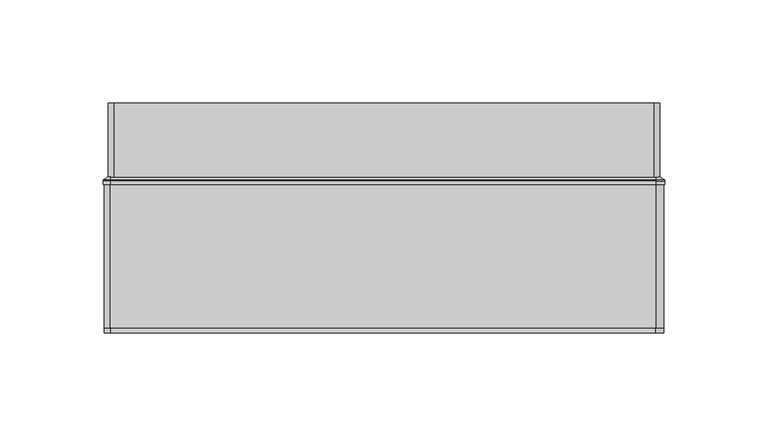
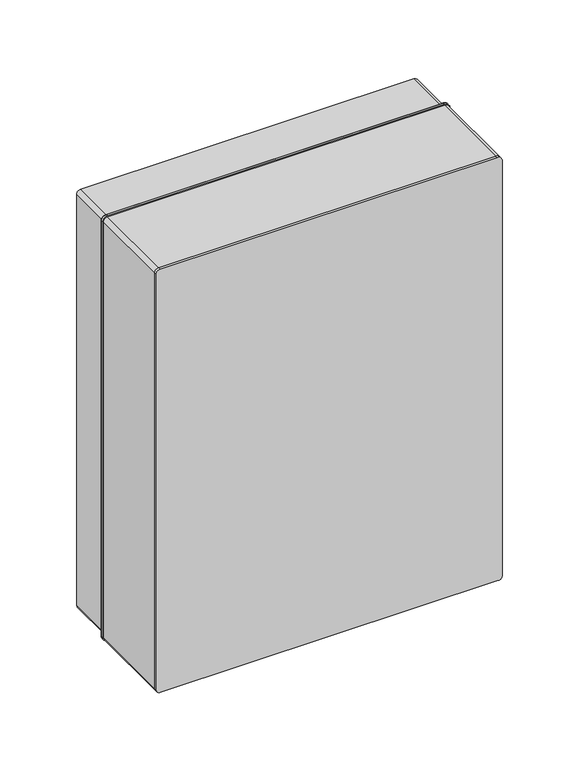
"""IFC4 building model written with IfcOpenShell, lengths in millimetres: proxy geometry, ЩРН-П-18_24_IP65 : ЩРН-П-24_IP65."""

from ifc_helpers import new_model, si_unit, point, frame, frame_2d, origin, place, context, project, spatial, polyline, circle_curve, ellipse_curve, trimmed, segment, composite_curve, outline, extrude, source, transform, mapped, element, save
from ifc_brep_helpers import plane_surface, cylinder_surface, revolved_surface, advanced_brep


def electrical_equipment_e8acea0d(model_context):
    return source(origin(), model_context, "Body", "SolidModel", [
        extrude(outline(polyline([(121.75, 91.5193543), (-121.75, 91.5193543), (-121.75, 111.5193543), (121.75, 111.5193543), (121.75, 91.5193543)])), frame((0.0, 0.0, -134.9981471), z_axis=(0.0, 0.0, 1.0), x_axis=(1.0, 0.0, 0.0)), (0.0, 0.0, 1.0), 115.0),
        extrude(outline(polyline([(121.75, 91.5193543), (-121.75, 91.5193543), (-121.75, 111.5193543), (121.75, 111.5193543), (121.75, 91.5193543)])), frame((0.0, 0.0, 19.9981471), z_axis=(0.0, 0.0, 1.0), x_axis=(1.0, 0.0, 0.0)), (0.0, 0.0, 1.0), 115.0),
        extrude(outline(composite_curve([segment(polyline([(173.5, 130.75), (173.5, -130.75)]), True, "CONTINUOUS"), segment(trimmed(circle_curve(frame_2d((170.5, -130.75)), 3.0), [point((173.5, -130.75))], [point((170.5, -133.75))], False, "CARTESIAN"), True, "CONTINUOUS"), segment(polyline([(170.5, -133.75), (-170.5, -133.75)]), True, "CONTINUOUS"), segment(trimmed(circle_curve(frame_2d((-170.5, -130.75)), 3.0), [point((-170.5, -133.75))], [point((-173.5, -130.75))], False, "CARTESIAN"), True, "CONTINUOUS"), segment(polyline([(-173.5, -130.75), (-173.5, 130.75)]), True, "CONTINUOUS"), segment(trimmed(circle_curve(frame_2d((-170.5, 130.75)), 3.0), [point((-173.5, 130.75))], [point((-170.5, 133.75))], False, "CARTESIAN"), True, "CONTINUOUS"), segment(polyline([(-170.5, 133.75), (170.5, 133.75)]), True, "CONTINUOUS"), segment(trimmed(circle_curve(frame_2d((170.5, 130.75)), 3.0), [point((170.5, 133.75))], [point((173.5, 130.75))], False, "CARTESIAN"), True, "CONTINUOUS")], self_intersect=False), holes=[polyline([(134.9962941, 121.75), (20.0, 121.75), (20.0, -121.75), (134.9962941, -121.75), (134.9962941, 121.75)]), polyline([(-134.9962941, 121.75), (-134.9962941, -121.75), (-20.0, -121.75), (-20.0, 121.75), (-134.9962941, 121.75)])]), frame((0.0, 75.5193543, 0.0), z_axis=(0.0, 1.0, 0.0), x_axis=(0.0, 0.0, 1.0)), (0.0, 0.0, 1.0), 36.0),
        extrude(outline(composite_curve([segment(trimmed(circle_curve(frame_2d((172.5, -132.75)), 3.0), [point((175.5, -132.75))], [point((172.5, -135.75))], False, "CARTESIAN"), True, "CONTINUOUS"), segment(polyline([(172.5, -135.75), (-172.5, -135.75)]), True, "CONTINUOUS"), segment(trimmed(circle_curve(frame_2d((-172.5, -132.75)), 3.0), [point((-172.5, -135.75))], [point((-175.5, -132.75))], False, "CARTESIAN"), True, "CONTINUOUS"), segment(polyline([(-175.5, -132.75), (-175.5, 132.75)]), True, "CONTINUOUS"), segment(trimmed(circle_curve(frame_2d((-172.5, 132.75)), 3.0), [point((-175.5, 132.75))], [point((-172.5, 135.75))], False, "CARTESIAN"), True, "CONTINUOUS"), segment(polyline([(-172.5, 135.75), (171.5283006, 135.75)]), True, "CONTINUOUS"), segment(trimmed(circle_curve(frame_2d((171.5283006, 131.7783006)), 3.9716994), [point((171.5283006, 135.75))], [point((175.5, 131.7783006))], False, "CARTESIAN"), True, "CONTINUOUS"), segment(polyline([(175.5, 131.7783006), (175.5, -132.75)]), True, "CONTINUOUS")], self_intersect=False)), frame((0.0, 0.0, 0.0), z_axis=(0.0, 1.0, 0.0), x_axis=(0.0, 0.0, 1.0)), (0.0, 0.0, 1.0), 2.0),
        advanced_brep(
        [(-136.2398142, 72.0, 172.507075), (-132.7276209, 72.0, 176.0192684), (-132.7276209, 73.566402, 176.0192684), (-136.2398142, 73.566402, 172.507075), (-133.7398142, 75.5193543, 172.507075), (-132.7276209, 75.5193543, 173.5192684), (-132.7276209, 72.0, 173.5192684), (-133.7398142, 72.0, 172.507075), (-136.2398142, 73.566402, -172.4754068), (-136.2398142, 72.0, -172.4754068), (-133.7398142, 72.0, -172.4754068), (-133.7398142, 75.5193543, -172.4754068), (-132.748733, 72.0, -175.966488), (-132.748733, 73.566402, -175.966488), (-132.748733, 75.5193543, -173.466488), (-132.748733, 72.0, -173.466488), (132.6996724, 73.566402, -175.966488), (132.6996724, 72.0, -175.966488), (132.6996724, 72.0, -173.466488), (132.6996724, 75.5193543, -173.466488), (136.2641503, 72.0, -172.40201), (136.2641503, 73.566402, -172.40201), (133.7641503, 75.5193543, -172.40201), (133.7641503, 72.0, -172.40201), (131.7635486, 72.0, 176.0192684), (131.7635486, 73.566402, 176.0192684), (131.7635486, 75.5193543, 173.5192684), (131.7635486, 72.0, 173.5192684), (-135.8514108, 74.2523963, 172.507075), (-132.7276209, 74.2523963, 175.630865), (-135.8514108, 74.2523963, -172.4754068), (-132.748733, 74.2523963, -175.5780846), (132.6996724, 74.2523963, -175.5780846), (135.8757469, 74.2523963, -172.40201), (131.7635486, 74.2523963, 175.630865), (133.7641503, 75.5193543, 171.5186666), (135.8757469, 74.2523963, 171.5186666), (136.2641503, 73.566402, 171.5186666), (136.2641503, 72.0, 171.5186666), (133.7641503, 72.0, 171.5186666)],
        [
            (0, 1, circle_curve(frame((-132.7276209, 72.0, 172.507075), z_axis=(0.0, 1.0, 0.0), x_axis=(0.0, 0.0, 1.0)), 3.5121934)),
            (1, 2),
            (2, 3, circle_curve(frame((-132.7276209, 73.566402, 172.507075), z_axis=(0.0, -1.0, 0.0), x_axis=(0.0, 0.0, 1.0)), 3.5121934)),
            (3, 0),
            (4, 5, circle_curve(frame((-132.7276209, 75.5193543, 172.507075), z_axis=(0.0, 1.0, 0.0), x_axis=(0.0, 0.0, 1.0)), 1.0121934)),
            (5, 6),
            (6, 7, circle_curve(frame((-132.7276209, 72.0, 172.507075), z_axis=(0.0, -1.0, 0.0), x_axis=(0.0, 0.0, 1.0)), 1.0121934)),
            (7, 4),
            (3, 8),
            (8, 9),
            (9, 0),
            (7, 10),
            (10, 11),
            (11, 4),
            (12, 9, circle_curve(frame((-132.748733, 72.0, -172.4754068), z_axis=(0.0, 1.0, 0.0), x_axis=(-1.0, 0.0, 0.0)), 3.4910812)),
            (8, 13, circle_curve(frame((-132.748733, 73.566402, -172.4754068), z_axis=(0.0, -1.0, 0.0), x_axis=(-1.0, 0.0, 0.0)), 3.4910812)),
            (13, 12),
            (14, 11, circle_curve(frame((-132.748733, 75.5193543, -172.4754068), z_axis=(0.0, 1.0, 0.0), x_axis=(-1.0, 0.0, 0.0)), 0.9910812)),
            (10, 15, circle_curve(frame((-132.748733, 72.0, -172.4754068), z_axis=(0.0, -1.0, 0.0), x_axis=(-1.0, 0.0, 0.0)), 0.9910812)),
            (15, 14),
            (13, 16),
            (16, 17),
            (17, 12),
            (15, 18),
            (18, 19),
            (19, 14),
            (20, 17, circle_curve(frame((132.6996724, 72.0, -172.40201), z_axis=(0.0, 1.0, 0.0), x_axis=(0.0, 0.0, -1.0)), 3.564478)),
            (16, 21, circle_curve(frame((132.6996724, 73.566402, -172.40201), z_axis=(0.0, -1.0, 0.0), x_axis=(0.0, 0.0, -1.0)), 3.564478)),
            (21, 20),
            (22, 19, circle_curve(frame((132.6996724, 75.5193543, -172.40201), z_axis=(0.0, 1.0, 0.0), x_axis=(0.0, 0.0, -1.0)), 1.064478)),
            (18, 23, circle_curve(frame((132.6996724, 72.0, -172.40201), z_axis=(0.0, -1.0, 0.0), x_axis=(0.0, 0.0, -1.0)), 1.064478)),
            (23, 22),
            (24, 25),
            (25, 2),
            (1, 24),
            (26, 27),
            (27, 6),
            (5, 26),
            (28, 29, circle_curve(frame((-132.7276209, 74.2523963, 172.507075), z_axis=(0.0, 1.0, 0.0), x_axis=(0.0, 0.0, 1.0)), 3.12379)),
            (29, 5),
            (4, 28),
            (2, 29, circle_curve(frame((-132.7276209, 73.566402, 175.2192684), z_axis=(-1.0, 0.0, 0.0), x_axis=(0.0, 0.0, -1.0)), 0.8)),
            (28, 3, circle_curve(frame((-135.4398142, 73.566402, 172.507075), z_axis=(0.0, 0.0, 1.0), x_axis=(1.0, 0.0, 0.0)), 0.8)),
            (11, 30),
            (30, 28),
            (30, 8, circle_curve(frame((-135.4398142, 73.566402, -172.4754068), z_axis=(0.0, 0.0, 1.0), x_axis=(1.0, 0.0, 0.0)), 0.8)),
            (31, 30, circle_curve(frame((-132.748733, 74.2523963, -172.4754068), z_axis=(0.0, 1.0, 0.0), x_axis=(-1.0, 0.0, 0.0)), 3.1026778)),
            (14, 31),
            (31, 13, circle_curve(frame((-132.748733, 73.566402, -175.166488), z_axis=(-1.0, 0.0, 0.0), x_axis=(0.0, 0.0, 1.0)), 0.8)),
            (19, 32),
            (32, 31),
            (32, 16, circle_curve(frame((132.6996724, 73.566402, -175.166488), z_axis=(-1.0, 0.0, 0.0), x_axis=(0.0, 0.0, 1.0)), 0.8)),
            (33, 32, circle_curve(frame((132.6996724, 74.2523963, -172.40201), z_axis=(0.0, 1.0, 0.0), x_axis=(0.0, 0.0, -1.0)), 3.1760746)),
            (22, 33),
            (33, 21, circle_curve(frame((135.4641503, 73.566402, -172.40201), z_axis=(0.0, 0.0, -1.0), x_axis=(-1.0, 0.0, 0.0)), 0.8)),
            (34, 26),
            (29, 34),
            (25, 34, circle_curve(frame((131.7635486, 73.566402, 175.2192684), z_axis=(-1.0, 0.0, 0.0), x_axis=(0.0, 0.0, -1.0)), 0.8)),
            (22, 35),
            (35, 36),
            (36, 33),
            (36, 37, circle_curve(frame((135.4641503, 73.566402, 171.5186666), z_axis=(0.0, 0.0, -1.0), x_axis=(-1.0, 0.0, 0.0)), 0.8)),
            (37, 21),
            (37, 38),
            (38, 20),
            (23, 39),
            (39, 35),
            (34, 36, circle_curve(frame((131.7635486, 74.2523963, 171.5186666), z_axis=(0.0, 1.0, 0.0), x_axis=(1.0, 0.0, 0.0)), 4.1121984)),
            (35, 26, circle_curve(frame((131.7635486, 75.5193543, 171.5186666), z_axis=(0.0, -1.0, 0.0), x_axis=(1.0, 0.0, 0.0)), 2.0006018)),
            (25, 37, circle_curve(frame((131.7635486, 73.566402, 171.5186666), z_axis=(0.0, 1.0, 0.0), x_axis=(1.0, 0.0, 0.0)), 4.5006018)),
            (24, 38, circle_curve(frame((131.7635486, 72.0, 171.5186666), z_axis=(0.0, 1.0, 0.0), x_axis=(1.0, 0.0, 0.0)), 4.5006018)),
            (27, 39, circle_curve(frame((131.7635486, 72.0, 171.5186666), z_axis=(0.0, 1.0, 0.0), x_axis=(1.0, 0.0, 0.0)), 2.0006018)),
        ],
        [
            cylinder_surface(frame((-132.7276209, 0.0, 172.507075), z_axis=(0.0, -1.0, 0.0), x_axis=(0.0, 0.0, 1.0)), 3.5121934),
            revolved_surface(polyline([(-132.7276209, 72.0, 173.5192684), (-132.7276209, 75.5193543, 173.5192684)]), (-132.7276209, 0.0, 172.507075), (0.0, -1.0, 0.0)),
            plane_surface(frame((-136.2398142, 73.566402, 172.507075), z_axis=(-1.0, 0.0, 0.0), x_axis=(0.0, 0.0, -1.0))),
            plane_surface(frame((-133.7398142, 72.0, 172.507075), z_axis=(1.0, 0.0, 0.0), x_axis=(0.0, 0.0, -1.0))),
            cylinder_surface(frame((-132.748733, 0.0, -172.4754068), z_axis=(0.0, -1.0, 0.0), x_axis=(-1.0, 0.0, 0.0)), 3.4910812),
            revolved_surface(polyline([(-133.73981419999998, 72.0, -172.4754068), (-133.73981419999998, 75.5193543, -172.4754068)]), (-132.748733, 0.0, -172.4754068), (0.0, -1.0, 0.0)),
            plane_surface(frame((-132.748733, 73.566402, -175.966488), z_axis=(0.0, 0.0, -1.0), x_axis=(1.0, 0.0, 0.0))),
            plane_surface(frame((-132.748733, 72.0, -173.466488), z_axis=(0.0, 0.0, 1.0), x_axis=(1.0, 0.0, 0.0))),
            cylinder_surface(frame((132.6996724, 0.0, -172.40201), z_axis=(0.0, -1.0, 0.0), x_axis=(0.0, 0.0, -1.0)), 3.564478),
            revolved_surface(polyline([(132.6996724, 72.0, -173.466488), (132.6996724, 75.5193543, -173.466488)]), (132.6996724, 0.0, -172.40201), (0.0, -1.0, 0.0)),
            plane_surface(frame((131.7635486, 73.566402, 176.0192684), z_axis=(0.0, 0.0, 1.0), x_axis=(-1.0, 0.0, 0.0))),
            plane_surface(frame((131.7635486, 72.0, 173.5192684), z_axis=(0.0, 0.0, -1.0), x_axis=(-1.0, 0.0, 0.0))),
            revolved_surface(polyline([(-132.7276209, 75.5193543, 173.5192684), (-132.7276209, 74.2523963, 175.630865)]), (-132.7276209, 0.0, 172.507075), (0.0, -1.0, 0.0)),
            revolved_surface(trimmed(ellipse_curve(frame((-132.7276209, 73.566402, 175.2192684), z_axis=(1.0, 0.0, 0.0), x_axis=(0.0, 0.0, -1.0)), 0.8, 0.8), [point((-132.7276209, 74.2523963, 175.630865))], [point((-132.7276209, 73.566402, 176.0192684))], True, "CARTESIAN"), (-132.7276209, 0.0, 172.507075), (0.0, -1.0, 0.0)),
            plane_surface(frame((-133.7398142, 75.5193543, 172.507075), z_axis=(-0.5144957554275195, 0.8574929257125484, 0.0), x_axis=(0.0, 0.0, -1.0))),
            cylinder_surface(frame((-135.4398142, 73.566402, 172.507075), z_axis=(0.0, 0.0, 1.0), x_axis=(1.0, 0.0, 0.0)), 0.8),
            revolved_surface(polyline([(-133.7398142, 75.5193543, -172.4754068), (-135.8514108, 74.2523963, -172.4754068)]), (-132.748733, 0.0, -172.4754068), (0.0, -1.0, 0.0)),
            revolved_surface(trimmed(ellipse_curve(frame((-135.4398142, 73.566402, -172.4754068), z_axis=(0.0, 0.0, 1.0), x_axis=(1.0, 0.0, 0.0)), 0.8, 0.8), [point((-135.8514108, 74.2523963, -172.4754068))], [point((-136.2398142, 73.566402, -172.4754068))], True, "CARTESIAN"), (-132.748733, 0.0, -172.4754068), (0.0, -1.0, 0.0)),
            plane_surface(frame((-132.748733, 75.5193543, -173.466488), z_axis=(0.0, 0.8574929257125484, -0.5144957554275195), x_axis=(1.0, 0.0, 0.0))),
            cylinder_surface(frame((-132.748733, 73.566402, -175.166488), z_axis=(-1.0, 0.0, 0.0), x_axis=(0.0, 0.0, 1.0)), 0.8),
            revolved_surface(polyline([(132.6996724, 75.5193543, -173.466488), (132.6996724, 74.2523963, -175.5780846)]), (132.6996724, 0.0, -172.40201), (0.0, -1.0, 0.0)),
            revolved_surface(trimmed(ellipse_curve(frame((132.6996724, 73.566402, -175.166488), z_axis=(-1.0, 0.0, 0.0), x_axis=(0.0, 0.0, 1.0)), 0.8, 0.8), [point((132.6996724, 74.2523963, -175.5780846))], [point((132.6996724, 73.566402, -175.966488))], True, "CARTESIAN"), (132.6996724, 0.0, -172.40201), (0.0, -1.0, 0.0)),
            plane_surface(frame((131.7635486, 75.5193543, 173.5192684), z_axis=(0.0, 0.8574929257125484, 0.5144957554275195), x_axis=(-1.0, 0.0, 0.0))),
            cylinder_surface(frame((131.7635486, 73.566402, 175.2192684), z_axis=(1.0, 0.0, 0.0), x_axis=(0.0, 0.0, -1.0)), 0.8),
            plane_surface(frame((133.7641503, 75.5193543, -172.40201), z_axis=(0.5144957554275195, 0.8574929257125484, 0.0), x_axis=(0.0, 0.0, 1.0))),
            cylinder_surface(frame((135.4641503, 73.566402, -172.40201), z_axis=(0.0, 0.0, -1.0), x_axis=(-1.0, 0.0, 0.0)), 0.8),
            plane_surface(frame((136.2641503, 73.566402, -172.40201), z_axis=(1.0, 0.0, 0.0), x_axis=(0.0, 0.0, 1.0))),
            plane_surface(frame((133.7641503, 72.0, -172.40201), z_axis=(-1.0, 0.0, 0.0), x_axis=(0.0, 0.0, 1.0))),
            revolved_surface(polyline([(133.7641503, 75.5193543, 171.5186666), (135.8757469, 74.2523963, 171.5186666)]), (131.7635486, 0.0, 171.5186666), (0.0, -1.0, 0.0)),
            revolved_surface(trimmed(ellipse_curve(frame((135.4641503, 73.566402, 171.5186666), z_axis=(0.0, 0.0, -1.0), x_axis=(-1.0, 0.0, 0.0)), 0.8, 0.8), [point((135.8757469, 74.2523963, 171.5186666))], [point((136.2641503, 73.566402, 171.5186666))], True, "CARTESIAN"), (131.7635486, 0.0, 171.5186666), (0.0, -1.0, 0.0)),
            cylinder_surface(frame((131.7635486, 0.0, 171.5186666), z_axis=(0.0, -1.0, 0.0), x_axis=(1.0, 0.0, 0.0)), 4.5006018),
            plane_surface(frame((131.7635486, 72.0, 171.5186666), z_axis=(0.0, -1.0, 0.0), x_axis=(1.0, 0.0, 0.0))),
            revolved_surface(polyline([(133.7641504, 72.0, 171.5186666), (133.7641504, 75.5193543, 171.5186666)]), (131.7635486, 0.0, 171.5186666), (0.0, -1.0, 0.0)),
        ],
        [
            (0, [[1, 2, 3, 4]]),
            (1, [[5, 6, 7, 8]]),
            (2, [[-4, 9, 10, 11]]),
            (3, [[-8, 12, 13, 14]]),
            (4, [[15, -10, 16, 17]]),
            (5, [[18, -13, 19, 20]]),
            (6, [[-17, 21, 22, 23]]),
            (7, [[-20, 24, 25, 26]]),
            (8, [[27, -22, 28, 29]]),
            (9, [[30, -25, 31, 32]]),
            (10, [[33, 34, -2, 35]]),
            (11, [[36, 37, -6, 38]]),
            (12, [[39, 40, -5, 41]]),
            (13, [[-3, 42, -39, 43]]),
            (14, [[-41, -14, 44, 45]]),
            (15, [[-43, -45, 46, -9]]),
            (16, [[47, -44, -18, 48]]),
            (17, [[-16, -46, -47, 49]]),
            (18, [[-48, -26, 50, 51]]),
            (19, [[-49, -51, 52, -21]]),
            (20, [[53, -50, -30, 54]]),
            (21, [[-28, -52, -53, 55]]),
            (22, [[56, -38, -40, 57]]),
            (23, [[58, -57, -42, -34]]),
            (24, [[-54, 59, 60, 61]]),
            (25, [[-55, -61, 62, 63]]),
            (26, [[-29, -63, 64, 65]]),
            (27, [[-32, 66, 67, -59]]),
            (28, [[68, -60, 69, -56]]),
            (29, [[70, -62, -68, -58]]),
            (30, [[71, -64, -70, -33]]),
            (31, [[-27, -65, -71, -35, -1, -11, -15, -23], [72, -66, -31, -24, -19, -12, -7, -37]]),
            (32, [[-69, -67, -72, -36]]),
        ],
    ),
        extrude(outline(composite_curve([segment(polyline([(175.5, 131.7783006), (175.5, -132.75)]), True, "CONTINUOUS"), segment(trimmed(circle_curve(frame_2d((172.5, -132.75)), 3.0), [point((175.5, -132.75))], [point((172.5, -135.75))], False, "CARTESIAN"), True, "CONTINUOUS"), segment(polyline([(172.5, -135.75), (-172.5, -135.75)]), True, "CONTINUOUS"), segment(trimmed(circle_curve(frame_2d((-172.5, -132.75)), 3.0), [point((-172.5, -135.75))], [point((-175.5, -132.75))], False, "CARTESIAN"), True, "CONTINUOUS"), segment(polyline([(-175.5, -132.75), (-175.5, 132.75)]), True, "CONTINUOUS"), segment(trimmed(circle_curve(frame_2d((-172.5, 132.75)), 3.0), [point((-175.5, 132.75))], [point((-172.5, 135.75))], False, "CARTESIAN"), True, "CONTINUOUS"), segment(polyline([(-172.5, 135.75), (171.5283006, 135.75)]), True, "CONTINUOUS"), segment(trimmed(circle_curve(frame_2d((171.5283006, 131.7783006)), 3.9716994), [point((171.5283006, 135.75))], [point((175.5, 131.7783006))], False, "CARTESIAN"), True, "CONTINUOUS")], self_intersect=False)), frame((0.0, 2.0, 0.0), z_axis=(0.0, 1.0, 0.0), x_axis=(0.0, 0.0, 1.0)), (0.0, 0.0, 1.0), 70.0),
    ])


if __name__ == "__main__":
    model = new_model("IFC4")
    model_context = context("Model", 3, world=origin())
    ifc_project = project(units=[si_unit("LENGTHUNIT", "METRE", prefix="MILLI")], contexts=[model_context])
    site = spatial("IfcSite", under=ifc_project)
    building = spatial("IfcBuilding", under=site)
    placement = place(None, origin())
    electrical_equipment_shape = electrical_equipment_e8acea0d(model_context)
    element("IfcBuildingElementProxy", 1, Name="ЩРН-П-18_24_IP65 : ЩРН-П-24_IP65", ObjectType="ЩРН-П-18_24_IP65 : ЩРН-П-24_IP65", at=placement, inside=building, context=model_context, shape_type="MappedRepresentation", body=[
        mapped(electrical_equipment_shape, transform((0.0, 0.0, 0.0), x_axis=(1.0, 0.0, 0.0), y_axis=(0.0, 1.0, 0.0), z_axis=(0.0, 0.0, 1.0))),
    ])
    save(model, "model.ifc")
